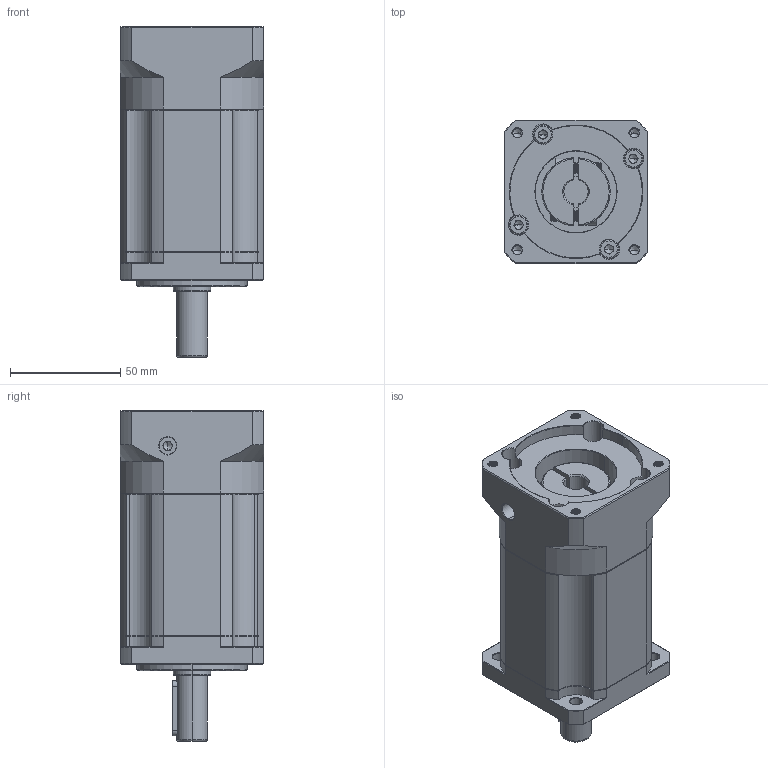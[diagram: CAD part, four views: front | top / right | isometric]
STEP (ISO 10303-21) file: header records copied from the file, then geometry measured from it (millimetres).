
FILE_DESCRIPTION (( 'STEP AP214' ), '1' );
FILE_NAME ('ZB060-D14-L3-P2-11-60-75-M5.step', '2023-08-16T07:02:44', ( '' ), ( '' ), 'SwSTEP 2.0', 'SolidWorks 2016', '' );
FILE_SCHEMA (( 'AUTOMOTIVE_DESIGN' ));
Length unit declared in the file: millimetre
Products named in the file (1): ZB060-D14-L3-P2-11-60-75-M5
Bounding box: 65 x 65 x 150 mm (x, y, z)
Volume: 386227.3 mm3; surface area: 62499.5 mm2
Topology: 6 solids, 6 shells, 2172 faces, 5855 edges, 3767 vertices
Faces by surface type: plane 1059, bspline 397, cylinder 396, cone 284, torus 36
Entity records: 118016 total; most frequent: CARTESIAN_POINT 42731, ORIENTED_EDGE 11650, DIRECTION 9188, EDGE_CURVE 5825, VERTEX_POINT 3767, LINE 3660, VECTOR 3660, AXIS2_PLACEMENT_3D 2764
